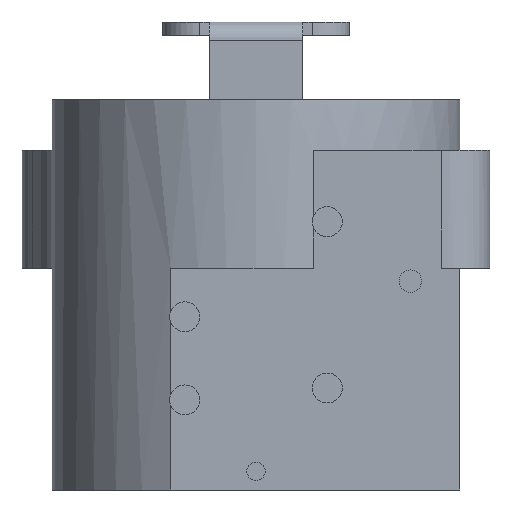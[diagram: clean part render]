
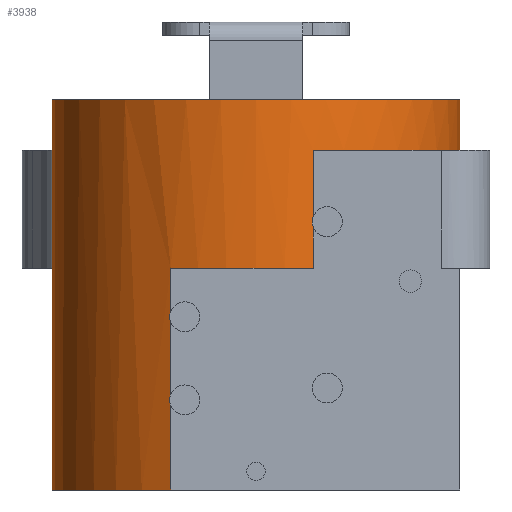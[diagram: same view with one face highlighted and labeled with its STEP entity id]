
A CAD part, front view. The second image highlights one B-rep face of the part: STEP entity #3938.
In plain terms, the highlighted cylindrical face has radius 10.9 mm (diameter 21.8 mm), a partial arc.
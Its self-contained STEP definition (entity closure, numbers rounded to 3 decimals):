
#194 = VERTEX_POINT ( 'NONE', #231 ) ;
#210 = LINE ( 'NONE', #1354, #2872 ) ;
#231 = CARTESIAN_POINT ( 'NONE',  ( 10.9, 0., 0. ) ) ;
#242 = FACE_OUTER_BOUND ( 'NONE', #996, .T. ) ;
#288 = CARTESIAN_POINT ( 'NONE',  ( -10.9, 0., -6.3 ) ) ;
#358 = DIRECTION ( 'NONE',  ( 0., 0., 1. ) ) ;
#422 = DIRECTION ( 'NONE',  ( 0., 0., -1. ) ) ;
#467 = DIRECTION ( 'NONE',  ( 0., 0., 1. ) ) ;
#486 = EDGE_CURVE ( 'NONE', #1823, #6718, #3086, .T. ) ;
#505 = CARTESIAN_POINT ( 'NONE',  ( 3.06, -10.462, -6.3 ) ) ;
#593 = DIRECTION ( 'NONE',  ( 0., 0., 1. ) ) ;
#597 = DIRECTION ( 'NONE',  ( 0., 0., 1. ) ) ;
#758 = ORIENTED_EDGE ( 'NONE', *, *, #1654, .T. ) ;
#890 = VECTOR ( 'NONE', #467, 1000. ) ;
#966 = CARTESIAN_POINT ( 'NONE',  ( 0., 0., -6.3 ) ) ;
#996 = EDGE_LOOP ( 'NONE', ( #2902, #3681, #4068, #758, #4839, #1969, #1780, #3623, #2022, #1526 ) ) ;
#1244 = CIRCLE ( 'NONE', #2258, 10.9 ) ;
#1334 = CARTESIAN_POINT ( 'NONE',  ( -4.56, -9.9, -18.15 ) ) ;
#1341 = CARTESIAN_POINT ( 'NONE',  ( -10.9, 0., -18.15 ) ) ;
#1354 = CARTESIAN_POINT ( 'NONE',  ( -10.9, 0., -6.3 ) ) ;
#1485 = CARTESIAN_POINT ( 'NONE',  ( 0., 0., -18.15 ) ) ;
#1526 = ORIENTED_EDGE ( 'NONE', *, *, #5771, .F. ) ;
#1528 = DIRECTION ( 'NONE',  ( 1., 0., 0. ) ) ;
#1654 = EDGE_CURVE ( 'NONE', #5530, #5832, #1244, .T. ) ;
#1780 = ORIENTED_EDGE ( 'NONE', *, *, #6713, .T. ) ;
#1800 = DIRECTION ( 'NONE',  ( 1., 0., 0. ) ) ;
#1814 = CARTESIAN_POINT ( 'NONE',  ( -10.9, 0., -6.3 ) ) ;
#1823 = VERTEX_POINT ( 'NONE', #1341 ) ;
#1969 = ORIENTED_EDGE ( 'NONE', *, *, #2578, .T. ) ;
#2022 = ORIENTED_EDGE ( 'NONE', *, *, #6124, .F. ) ;
#2150 = CARTESIAN_POINT ( 'NONE',  ( -10.9, 0., 0. ) ) ;
#2154 = CARTESIAN_POINT ( 'NONE',  ( -10.9, 0., -6.3 ) ) ;
#2159 = DIRECTION ( 'NONE',  ( 0., 0., 1. ) ) ;
#2175 = AXIS2_PLACEMENT_3D ( 'NONE', #2894, #3403, #1800 ) ;
#2258 = AXIS2_PLACEMENT_3D ( 'NONE', #966, #3121, #1528 ) ;
#2376 = AXIS2_PLACEMENT_3D ( 'NONE', #5039, #597, #2851 ) ;
#2392 = DIRECTION ( 'NONE',  ( 0., 0., 1. ) ) ;
#2498 = CARTESIAN_POINT ( 'NONE',  ( -4.56, -9.9, -18.15 ) ) ;
#2578 = EDGE_CURVE ( 'NONE', #4517, #194, #3751, .T. ) ;
#2706 = VERTEX_POINT ( 'NONE', #2498 ) ;
#2851 = DIRECTION ( 'NONE',  ( 1., 0., 0. ) ) ;
#2872 = VECTOR ( 'NONE', #3515, 1000. ) ;
#2894 = CARTESIAN_POINT ( 'NONE',  ( 0., 0., -6.3 ) ) ;
#2902 = ORIENTED_EDGE ( 'NONE', *, *, #486, .F. ) ;
#2908 = VERTEX_POINT ( 'NONE', #2150 ) ;
#2942 = CARTESIAN_POINT ( 'NONE',  ( 3.06, -10.462, -6.3 ) ) ;
#3086 = LINE ( 'NONE', #288, #6280 ) ;
#3121 = DIRECTION ( 'NONE',  ( 0., 0., 1. ) ) ;
#3211 = EDGE_CURVE ( 'NONE', #2706, #5530, #3986, .T. ) ;
#3390 = CARTESIAN_POINT ( 'NONE',  ( 10.9, 0., 2.7 ) ) ;
#3403 = DIRECTION ( 'NONE',  ( 0., 0., 1. ) ) ;
#3515 = DIRECTION ( 'NONE',  ( 0., 0., 1. ) ) ;
#3623 = ORIENTED_EDGE ( 'NONE', *, *, #6287, .F. ) ;
#3681 = ORIENTED_EDGE ( 'NONE', *, *, #5633, .F. ) ;
#3751 = CIRCLE ( 'NONE', #2376, 10.9 ) ;
#3757 = CARTESIAN_POINT ( 'NONE',  ( 10.9, 0., -6.3 ) ) ;
#3906 = CIRCLE ( 'NONE', #5399, 10.9 ) ;
#3938 = ADVANCED_FACE ( 'NONE', ( #242 ), #6179, .T. ) ;
#3947 = DIRECTION ( 'NONE',  ( 0., 0., 1. ) ) ;
#3956 = CARTESIAN_POINT ( 'NONE',  ( 3.06, -10.462, 0. ) ) ;
#3986 = LINE ( 'NONE', #1334, #4426 ) ;
#4068 = ORIENTED_EDGE ( 'NONE', *, *, #3211, .T. ) ;
#4176 = CARTESIAN_POINT ( 'NONE',  ( -10.9, 0., 2.7 ) ) ;
#4187 = LINE ( 'NONE', #505, #890 ) ;
#4315 = DIRECTION ( 'NONE',  ( -1., 0., 0. ) ) ;
#4426 = VECTOR ( 'NONE', #2392, 1000. ) ;
#4517 = VERTEX_POINT ( 'NONE', #3956 ) ;
#4567 = CARTESIAN_POINT ( 'NONE',  ( -4.56, -9.9, -6.3 ) ) ;
#4584 = LINE ( 'NONE', #1814, #7007 ) ;
#4839 = ORIENTED_EDGE ( 'NONE', *, *, #5517, .T. ) ;
#4858 = CIRCLE ( 'NONE', #5536, 10.9 ) ;
#5039 = CARTESIAN_POINT ( 'NONE',  ( 0., 0., 0. ) ) ;
#5369 = DIRECTION ( 'NONE',  ( 1., 0., 0. ) ) ;
#5399 = AXIS2_PLACEMENT_3D ( 'NONE', #6986, #2159, #5369 ) ;
#5433 = LINE ( 'NONE', #3757, #6525 ) ;
#5517 = EDGE_CURVE ( 'NONE', #5832, #4517, #4187, .T. ) ;
#5530 = VERTEX_POINT ( 'NONE', #4567 ) ;
#5536 = AXIS2_PLACEMENT_3D ( 'NONE', #1485, #422, #4315 ) ;
#5540 = VERTEX_POINT ( 'NONE', #4176 ) ;
#5633 = EDGE_CURVE ( 'NONE', #2706, #1823, #4858, .T. ) ;
#5771 = EDGE_CURVE ( 'NONE', #6718, #2908, #4584, .T. ) ;
#5832 = VERTEX_POINT ( 'NONE', #2942 ) ;
#6124 = EDGE_CURVE ( 'NONE', #2908, #5540, #210, .T. ) ;
#6179 = CYLINDRICAL_SURFACE ( 'NONE', #2175, 10.9 ) ;
#6280 = VECTOR ( 'NONE', #358, 1000. ) ;
#6287 = EDGE_CURVE ( 'NONE', #5540, #6845, #3906, .T. ) ;
#6525 = VECTOR ( 'NONE', #593, 1000. ) ;
#6713 = EDGE_CURVE ( 'NONE', #194, #6845, #5433, .T. ) ;
#6718 = VERTEX_POINT ( 'NONE', #2154 ) ;
#6845 = VERTEX_POINT ( 'NONE', #3390 ) ;
#6986 = CARTESIAN_POINT ( 'NONE',  ( 0., 0., 2.7 ) ) ;
#7007 = VECTOR ( 'NONE', #3947, 1000. ) ;
